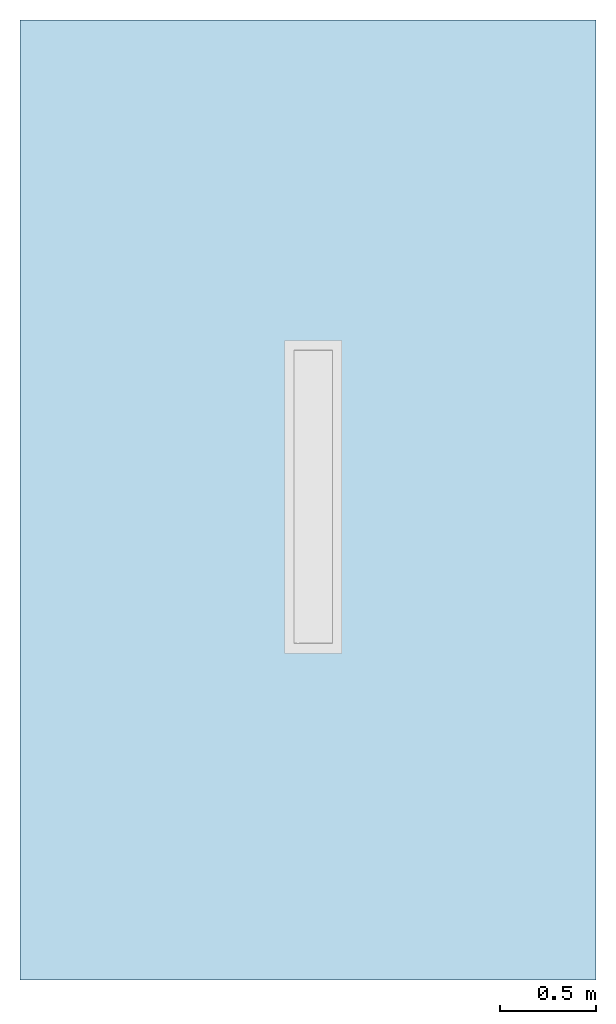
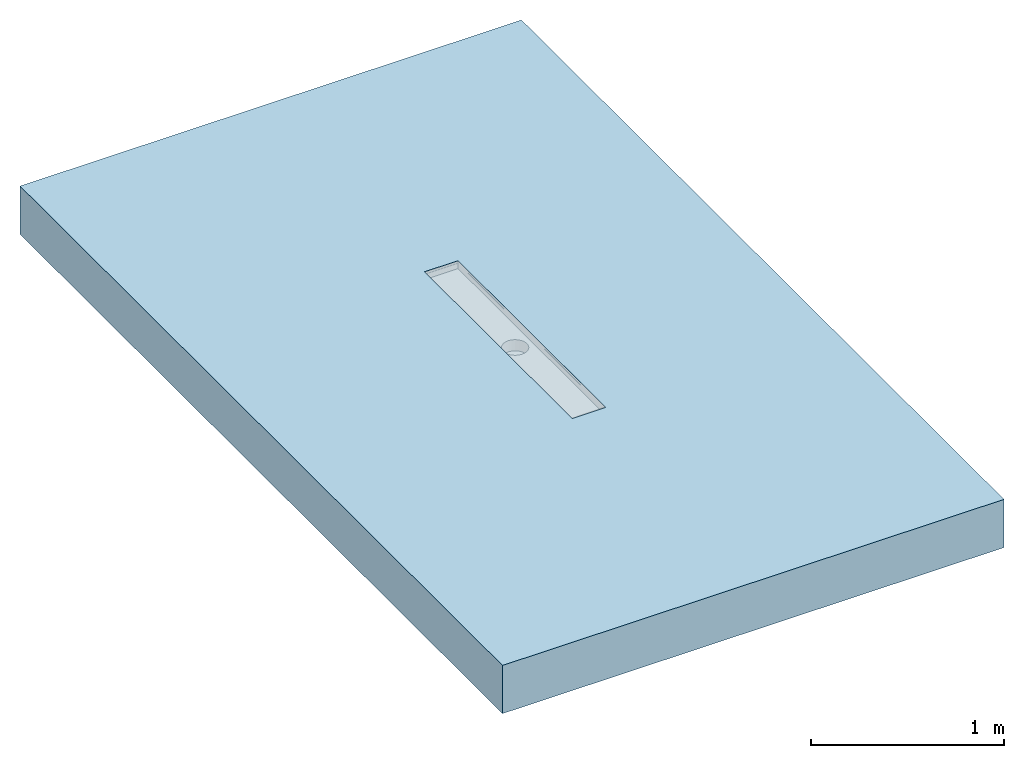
# One storey, incomplete: 1 slab, 1 opening.
"""IFC2X3 building model written with IfcOpenShell, lengths in millimetres."""

import ifcopenshell
import ifcopenshell.guid

model = None  # the IFC model being written
_history = None  # IfcOwnerHistory: only IFC2X3 demands one
_inside = {}  # id of a spatial element -> (the spatial element, [elements in it])
_under = {}  # id of a project, library or spatial element -> (it, [spatial elements below it])
_declared = {}  # id of a project -> (the project, [libraries it declares])
_typed = {}  # id of a type object -> (the type object, [elements of that type])
_made_of = {}  # id of a material, layer set ... -> (it, [elements and type objects made of it])


def new_model(schema):
    """Start an empty IFC model of exactly this schema.

    Asked for "IFC4X3", IfcOpenShell would pick the latest addendum, in which some entities
    have other attributes; the version numbers below select the first issue.
    IFC2X3 requires an IfcOwnerHistory on every rooted entity: one is made here for all.
    """
    global model, _history
    if schema == "IFC4X3":
        model = ifcopenshell.file(schema_version=(4, 3, 0, 0))
    else:
        model = ifcopenshell.file(schema=schema)
    _inside.clear()
    _under.clear()
    _declared.clear()
    _typed.clear()
    _made_of.clear()
    _history = None
    if model.schema == "IFC2X3":
        org = make("IfcOrganization", Name="unknown")
        user = make(
            "IfcPersonAndOrganization",
            ThePerson=make("IfcPerson", FamilyName="unknown"),
            TheOrganization=org,
        )
        app = make(
            "IfcApplication",
            ApplicationDeveloper=org,
            Version="unknown",
            ApplicationFullName="unknown",
            ApplicationIdentifier="unknown",
        )
        _history = make(
            "IfcOwnerHistory",
            OwningUser=user,
            OwningApplication=app,
            ChangeAction="ADDED",
            CreationDate=0,
        )
    return model


def make(cls, **values):
    """One entity of the class cls with the attributes given. An attribute that is None is left unset."""
    return model.create_entity(
        cls, **{name: value for name, value in values.items() if value is not None}
    )


def entity(cls, *values):
    """Any entity or typed value of the class cls, its attributes in the order of the schema. None: left unset."""
    e = model.create_entity(cls)
    for i, value in enumerate(values):
        if value is not None:
            e[i] = value
    return e


def rooted(cls, **values):
    """An entity with a GlobalId (a new one), such as an element, a storey or a relation."""
    return make(cls, GlobalId=ifcopenshell.guid.new(), OwnerHistory=_history, **values)


def si_unit(unit_type, name, prefix=None):
    """IfcSIUnit, for example si_unit("LENGTHUNIT", "METRE", prefix="MILLI")."""
    return make("IfcSIUnit", UnitType=unit_type, Prefix=prefix, Name=name)


def converted_unit(unit_type, name, factor, base, dimensions=None, offset=None):
    """IfcConversionBasedUnit, such as the inch: factor (a typed value) times the base unit."""
    return make(
        "IfcConversionBasedUnit"
        if offset is None
        else "IfcConversionBasedUnitWithOffset",
        ConversionOffset=offset,
        Dimensions=None
        if dimensions is None
        else entity("IfcDimensionalExponents", *dimensions),
        UnitType=unit_type,
        Name=name,
        ConversionFactor=make(
            "IfcMeasureWithUnit", ValueComponent=factor, UnitComponent=base
        ),
    )


def derived_unit(unit_type, elements):
    """IfcDerivedUnit: a product of units, each with its exponent."""
    return make(
        "IfcDerivedUnit",
        Elements=[
            make("IfcDerivedUnitElement", Unit=unit, Exponent=power)
            for unit, power in elements
        ],
        UnitType=unit_type,
    )


def assignment(units):
    """IfcUnitAssignment: the units of a project."""
    return None if units is None else make("IfcUnitAssignment", Units=units)


def point(xyz):
    """IfcCartesianPoint."""
    return None if xyz is None else make("IfcCartesianPoint", Coordinates=xyz)


def direction(xyz):
    """IfcDirection."""
    return None if xyz is None else make("IfcDirection", DirectionRatios=xyz)


def frame(location, z_axis=None, x_axis=None):
    """IfcAxis2Placement3D, a coordinate frame: its origin and axes. An axis left out is left unset."""
    return make(
        "IfcAxis2Placement3D",
        Location=point(location),
        Axis=direction(z_axis),
        RefDirection=direction(x_axis),
    )


def frame_2d(location, x_axis=None):
    """IfcAxis2Placement2D, a coordinate frame in the plane: its origin and x axis."""
    return make(
        "IfcAxis2Placement2D", Location=point(location), RefDirection=direction(x_axis)
    )


def origin():
    """The frame at (0, 0, 0) with its axes left unset."""
    return frame((0.0, 0.0, 0.0))


def place(relative_to, where):
    """IfcLocalPlacement: puts the frame where relative to a parent placement (None: the world)."""
    return make(
        "IfcLocalPlacement", PlacementRelTo=relative_to, RelativePlacement=where
    )


def context(
    kind, dimensions, precision=None, world=None, true_north=None, identifier=None
):
    """IfcGeometricRepresentationContext, for example the 3D "Model" context."""
    return make(
        "IfcGeometricRepresentationContext",
        ContextIdentifier=identifier,
        ContextType=kind,
        CoordinateSpaceDimension=dimensions,
        Precision=precision,
        WorldCoordinateSystem=world,
        TrueNorth=true_north,
    )


def subcontext(parent, identifier, kind, view, scale=None):
    """IfcGeometricRepresentationSubContext, for example "Body" below "Model"."""
    return make(
        "IfcGeometricRepresentationSubContext",
        ContextIdentifier=identifier,
        ContextType=kind,
        ParentContext=parent,
        TargetScale=scale,
        TargetView=view,
    )


def project(units=None, contexts=None):
    """IfcProject with its units and contexts."""
    return rooted(
        "IfcProject",
        Name="project",
        RepresentationContexts=contexts,
        UnitsInContext=assignment(units),
    )


def spatial(cls, under=None, at=None, **own):
    """A site, building, storey or space (cls), placed at a placement, below another one or the project."""
    s = rooted(cls, ObjectPlacement=at, **own)
    if under is not None:
        _under.setdefault(under.id(), (under, []))[1].append(s)
    return s


def profile(cls, at=None, kind="AREA", **sizes):
    """A parametric profile (cls). Its sizes go by their IFC names, for example OverallWidth=200.0."""
    return make(cls, ProfileType=kind, Position=at, **sizes)


def rectangle(**sizes):
    """IfcRectangleProfileDef."""
    return profile("IfcRectangleProfileDef", **sizes)


def extrude(swept, where, along, depth):
    """IfcExtrudedAreaSolid: the profile swept, set in the frame where, extruded along a direction by depth."""
    return make(
        "IfcExtrudedAreaSolid",
        SweptArea=swept,
        Position=where,
        ExtrudedDirection=direction(along),
        Depth=depth,
    )


def faces_of(points, faces, orient=None, outer=None):
    """IfcFace entities. A face is a list of loops; a loop is a list of indices into points, from 0.

    orient and outer hold one flag for each loop. By default every Orientation is true, the
    first loop of a face is its IfcFaceOuterBound and the others are IfcFaceBound.
    """
    made = []
    for i, loops in enumerate(faces):
        bounds = []
        for j, loop in enumerate(loops):
            is_outer = j == 0 if outer is None else outer[i][j]
            bounds.append(
                make(
                    "IfcFaceOuterBound" if is_outer else "IfcFaceBound",
                    Bound=make("IfcPolyLoop", Polygon=[points[k] for k in loop]),
                    Orientation=True if orient is None else orient[i][j],
                )
            )
        made.append(make("IfcFace", Bounds=bounds))
    return made


def faceted_brep(points, faces, orient=None, outer=None, voids=None):
    """IfcFacetedBrep: a solid bounded by flat faces; with voids (closed shells), ...WithVoids."""
    shared = [point(p) for p in points]
    hull = make("IfcClosedShell", CfsFaces=faces_of(shared, faces, orient, outer))
    if voids is None:
        return make("IfcFacetedBrep", Outer=hull)
    return make(
        "IfcFacetedBrepWithVoids",
        Outer=hull,
        Voids=[
            make(cls, CfsFaces=faces_of(shared, fs, o, b)) for cls, fs, o, b in voids
        ],
    )


def shape(context_of_items, identifier, shape_type, items):
    """IfcShapeRepresentation: the items that make up one representation, for example the "Body"."""
    return make(
        "IfcShapeRepresentation",
        ContextOfItems=context_of_items,
        RepresentationIdentifier=identifier,
        RepresentationType=shape_type,
        Items=items,
    )


def material(Name=None, Category=None):
    """IfcMaterial."""
    return make("IfcMaterial", Name=Name, Category=Category)


def layer(
    of_material, thickness, ventilated=None, Name=None, Category=None, Priority=None
):
    """IfcMaterialLayer: one layer of a wall or slab, of a material (None: an air gap)."""
    return make(
        "IfcMaterialLayer",
        Material=of_material,
        LayerThickness=thickness,
        IsVentilated=ventilated,
        Name=Name,
        Category=Category,
        Priority=Priority,
    )


def layer_set(layers, Name=None):
    """IfcMaterialLayerSet."""
    return make("IfcMaterialLayerSet", MaterialLayers=layers, LayerSetName=Name)


def layer_usage(for_layer_set, set_direction, sense, offset, extent=None):
    """IfcMaterialLayerSetUsage: how a layer set lies in its element."""
    return make(
        "IfcMaterialLayerSetUsage",
        ForLayerSet=for_layer_set,
        LayerSetDirection=set_direction,
        DirectionSense=sense,
        OffsetFromReferenceLine=offset,
        ReferenceExtent=extent,
    )


def made_of(thing, what):
    """Note that an element or type object is made of a material, layer set ...; save() writes the relation."""
    if what is not None:
        _made_of.setdefault(what.id(), (what, []))[1].append(thing)
    return thing


def element(
    cls,
    number,
    at=None,
    inside=None,
    cuts=None,
    type_object=None,
    material=None,
    context=None,
    identifier="Body",
    shape_type=None,
    held_by="IfcProductDefinitionShape",
    body=None,
    shapes=None,
    **own,
):
    """One element of the class cls, such as IfcWall. Its Tag is "e" and its number.

    at: its placement. inside: the storey or other place that contains it. cuts: it is an
    opening in that element (IfcRelVoidsElement). A single representation is given by context,
    identifier, shape_type and body (its items); several are given by shapes. held_by: the class
    of the entity that holds the representations. save() writes the other relations.
    """
    e = rooted(cls, Tag="e%d" % number, ObjectPlacement=at, **own)
    if body is not None:
        shapes = [shape(context, identifier, shape_type, body)]
    if shapes is not None:
        e.Representation = make(held_by, Representations=shapes)
    if inside is not None:
        _inside.setdefault(inside.id(), (inside, []))[1].append(e)
    if cuts is not None:
        rooted(
            "IfcRelVoidsElement", RelatingBuildingElement=cuts, RelatedOpeningElement=e
        )
    if type_object is not None:
        _typed.setdefault(type_object.id(), (type_object, []))[1].append(e)
    return made_of(e, material)


def aggregate(whole, parts):
    """IfcRelAggregates: a whole, such as a stair, and the parts it consists of."""
    return rooted("IfcRelAggregates", RelatingObject=whole, RelatedObjects=parts)


def save(model, path):
    """Write the relations noted so far, then the file.

    IfcRelAggregates (storeys below a building ...), IfcRelContainedInSpatialStructure (elements
    in a storey), IfcRelDefinesByType, IfcRelAssociatesMaterial and IfcRelDeclares: one each for
    every whole, place, type object, material and project.
    """
    for whole, parts in _under.values():
        aggregate(whole, parts)
    for where, things in _inside.values():
        rooted(
            "IfcRelContainedInSpatialStructure",
            RelatedElements=things,
            RelatingStructure=where,
        )
    for kind, things in _typed.values():
        rooted("IfcRelDefinesByType", RelatedObjects=things, RelatingType=kind)
    for what, things in _made_of.values():
        rooted("IfcRelAssociatesMaterial", RelatedObjects=things, RelatingMaterial=what)
    for by, libraries in _declared.values():
        rooted("IfcRelDeclares", RelatingContext=by, RelatedDefinitions=libraries)
    model.write(path)


model = new_model("IFC2X3")

# Units and contexts
model_context = context("Model", 3, precision=1e-05, world=origin(), true_north=direction((2.0, 6.12303176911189e-17, 1.0)))
context_of_model = context(None, 3, precision=1e-05, world=origin(), true_north=direction((2.0, 6.12303176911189e-17, 1.0)))
body_context = subcontext(model_context, "Body", "Model", "MODEL_VIEW")
ifc_project = project(units=[si_unit("LENGTHUNIT", "METRE", prefix="MILLI"), converted_unit("AREAUNIT", "SQUARE FOOT", entity("IfcRatioMeasure", 0.09290304), si_unit("AREAUNIT", "SQUARE_METRE"), dimensions=[2, 0, 0, 0, 0, 0, 0]), converted_unit("VOLUMEUNIT", "CUBIC FOOT", entity("IfcRatioMeasure", 0.028316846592), si_unit("VOLUMEUNIT", "CUBIC_METRE"), dimensions=[3, 0, 0, 0, 0, 0, 0]), converted_unit("PLANEANGLEUNIT", "DEGREE", entity("IfcRatioMeasure", 0.0174532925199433), si_unit("PLANEANGLEUNIT", "RADIAN"), dimensions=[0, 0, 0, 0, 0, 0, 0]), si_unit("MASSUNIT", "GRAM", prefix="KILO"), si_unit("TIMEUNIT", "SECOND"), si_unit("THERMODYNAMICTEMPERATUREUNIT", "KELVIN"), derived_unit("THERMALTRANSMITTANCEUNIT", [(si_unit("MASSUNIT", "GRAM", prefix="KILO"), 1), (si_unit("THERMODYNAMICTEMPERATUREUNIT", "KELVIN"), -1), (si_unit("TIMEUNIT", "SECOND"), -3)]), derived_unit("VOLUMETRICFLOWRATEUNIT", [(si_unit("LENGTHUNIT", "METRE"), 3), (si_unit("TIMEUNIT", "SECOND"), -1)]), si_unit("POWERUNIT", "WATT")], contexts=[model_context, context_of_model])

# Site, building, storey
site_placement = place(None, origin())
site = spatial("IfcSite", under=ifc_project, at=site_placement, Name="Default", CompositionType="ELEMENT")
building_placement = place(site_placement, origin())
building = spatial("IfcBuilding", under=site, at=building_placement, CompositionType="ELEMENT")
storey_placement = place(building_placement, origin())
storey = spatial("IfcBuildingStorey", under=building, at=storey_placement, Name="Level 1", CompositionType="ELEMENT", Elevation=0.0)

# Slab, opening
ifc_material = material(Name="Default Floor")
ifc_layer = layer(ifc_material, 304.8)
ifc_layer_set = layer_set([ifc_layer], Name="Floor:Generic - 12\"")
ifc_layer_usage = layer_usage(ifc_layer_set, "AXIS3", "POSITIVE", 0.0)
slab_placement = place(storey_placement, frame((-2592.42688678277, 381.838531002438, -304.8)))
slab = element("IfcSlab", 1, at=slab_placement, inside=storey, material=ifc_layer_usage, Name="Floor:Generic - 12\"", ObjectType="Floor:Generic - 12\"", PredefinedType="FLOOR", context=body_context, shape_type="SweptSolid", body=[
    extrude(rectangle(XDim=5000.0, YDim=3000.0, at=frame_2d((0.0, 0.0), x_axis=(0.0, -1.0))), frame((1500.0, 2500.0, 304.8), z_axis=(0.0, 0.0, -1.0), x_axis=(-1.0, 0.0, 0.0)), (0.0, 0.0, 1.0), 304.8),
])
opening_placement = place(slab_placement, frame((1378.18516071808, 1701.43481396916, 184.151793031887)))
element("IfcOpeningElement", 2, at=opening_placement, cuts=slab, ObjectType="Recess", context=body_context, shape_type="Brep", body=[
    faceted_brep([(250.0, 50.0, 120.648206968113), (250.0, 50.0, 105.648216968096), (250.0, 1580.0, 105.648216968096), (250.0, 1580.0, 120.648206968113), (250.0, 50.0, 104.148206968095), (250.0, 50.0, 70.6482069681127), (250.0, 1580.0, 70.6482069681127), (250.0, 1580.0, 104.148206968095), (50.0, 50.0, 70.6482069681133), (50.0, 50.0, 104.148206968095), (50.0, 1580.0, 104.148206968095), (50.0, 1580.0, 70.6482069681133), (50.0, 50.0, 105.648216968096), (50.0, 50.0, 120.648206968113), (50.0, 1580.0, 120.648206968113), (50.0, 1580.0, 105.648216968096), (114.499999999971, 753.512196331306, 70.6482069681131), (131.623847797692, 746.419266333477, 70.648206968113), (99.7954185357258, 764.795418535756, 70.6482069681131), (150.0, 744.0, 70.648206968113), (79.0, 815.0, 70.6482069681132), (81.4192663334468, 796.623847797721, 70.6482069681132), (88.5121963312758, 779.500000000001, 70.6482069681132), (168.37615220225, 746.419266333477, 70.6482069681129), (185.499999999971, 753.512196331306, 70.6482069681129), (200.204581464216, 764.795418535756, 70.6482069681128), (211.487803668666, 779.500000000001, 70.6482069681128), (218.580733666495, 796.623847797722, 70.6482069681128), (221.0, 815.0, 70.6482069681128), (88.5121963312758, 850.500000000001, 70.6482069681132), (81.4192663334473, 833.37615220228, 70.6482069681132), (99.7954185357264, 865.204581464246, 70.6482069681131), (114.499999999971, 876.487803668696, 70.6482069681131), (131.623847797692, 883.580733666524, 70.648206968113), (150.0, 886.0, 70.648206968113), (218.580733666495, 833.376152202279, 70.6482069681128), (211.487803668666, 850.5, 70.6482069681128), (185.499999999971, 876.487803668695, 70.6482069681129), (168.37615220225, 883.580733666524, 70.6482069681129), (200.204581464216, 865.204581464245, 70.6482069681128), (131.623847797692, 746.419266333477, 0.0), (114.499999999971, 753.512196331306, 0.0), (99.7954185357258, 764.795418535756, 0.0), (150.0, 744.0, 0.0), (81.4192663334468, 833.376152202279, 0.0), (88.5121963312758, 779.500000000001, 0.0), (81.4192663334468, 796.623847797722, 0.0), (131.623847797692, 883.580733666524, 0.0), (168.37615220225, 746.419266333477, 0.0), (200.204581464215, 764.795418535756, 0.0), (185.499999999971, 753.512196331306, 0.0), (218.580733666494, 796.623847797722, 0.0), (211.487803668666, 779.500000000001, 0.0), (211.487803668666, 850.5, 0.0), (79.0, 815.0, 0.0), (88.5121963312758, 850.500000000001, 0.0), (99.7954185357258, 865.204581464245, 0.0), (150.0, 886.0, 0.0), (114.499999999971, 876.487803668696, 0.0), (185.499999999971, 876.487803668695, 0.0), (218.580733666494, 833.376152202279, 0.0), (221.0, 815.0, 0.0), (200.204581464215, 865.204581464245, 0.0), (168.37615220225, 883.580733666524, 0.0), (0.0, 0.0, 104.148206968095), (0.0, 1630.0, 104.148206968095), (300.0, 0.0, 104.148206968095), (300.0, 1630.0, 104.148206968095), (0.0, 1630.0, 105.648216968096), (0.0, 0.0, 105.648216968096), (300.0, 1630.0, 105.648216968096), (300.0, 0.0, 105.648216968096)], [[[0, 1, 2]], [[2, 3, 0]], [[4, 5, 6]], [[6, 7, 4]], [[8, 9, 10]], [[10, 11, 8]], [[12, 13, 14]], [[14, 15, 12]], [[15, 14, 3]], [[3, 2, 15]], [[11, 10, 7]], [[7, 6, 11]], [[1, 0, 13]], [[13, 12, 1]], [[5, 4, 8]], [[9, 8, 4]], [[13, 0, 14]], [[3, 14, 0]], [[8, 16, 17]], [[16, 8, 18]], [[8, 17, 19]], [[20, 21, 8]], [[22, 18, 8]], [[21, 22, 8]], [[8, 11, 20]], [[5, 19, 23]], [[19, 5, 8]], [[5, 23, 24]], [[24, 25, 5]], [[26, 27, 5]], [[25, 26, 5]], [[5, 27, 28]], [[29, 30, 11]], [[31, 29, 11]], [[32, 11, 33]], [[11, 32, 31]], [[34, 33, 11]], [[11, 6, 34]], [[30, 20, 11]], [[35, 36, 6]], [[28, 35, 6]], [[37, 38, 6]], [[39, 6, 36]], [[6, 39, 37]], [[38, 34, 6]], [[28, 6, 5]], [[40, 41, 42]], [[43, 40, 42]], [[44, 45, 46]], [[47, 43, 42]], [[45, 47, 42]], [[48, 49, 50]], [[47, 48, 43]], [[49, 51, 52]], [[53, 49, 48]], [[53, 51, 49]], [[44, 46, 54]], [[44, 55, 56]], [[56, 47, 45]], [[57, 48, 47]], [[47, 56, 58]], [[57, 59, 48]], [[51, 60, 61]], [[53, 60, 51]], [[53, 59, 62]], [[48, 59, 53]], [[63, 59, 57]], [[44, 56, 45]], [[36, 53, 62]], [[37, 59, 63]], [[62, 59, 39]], [[38, 63, 57]], [[28, 60, 35]], [[60, 28, 61]], [[35, 60, 36]], [[60, 53, 36]], [[62, 39, 36]], [[37, 39, 59]], [[63, 38, 37]], [[57, 34, 38]], [[33, 47, 58]], [[56, 32, 58]], [[29, 55, 44]], [[56, 55, 31]], [[30, 44, 54]], [[47, 33, 34]], [[58, 32, 33]], [[56, 31, 32]], [[55, 29, 31]], [[30, 29, 44]], [[54, 20, 30]], [[47, 34, 57]], [[46, 21, 54]], [[45, 22, 46]], [[40, 43, 17]], [[42, 18, 45]], [[46, 22, 21]], [[21, 20, 54]], [[16, 41, 17]], [[16, 18, 42]], [[41, 40, 17]], [[18, 22, 45]], [[42, 41, 16]], [[43, 19, 17]], [[23, 48, 50]], [[49, 24, 50]], [[26, 52, 51]], [[49, 52, 25]], [[27, 51, 61]], [[48, 23, 19]], [[50, 24, 23]], [[49, 25, 24]], [[52, 26, 25]], [[27, 26, 51]], [[61, 28, 27]], [[48, 19, 43]], [[64, 9, 4]], [[9, 64, 65]], [[66, 4, 67]], [[4, 66, 64]], [[10, 65, 7]], [[65, 10, 9]], [[7, 67, 4]], [[67, 7, 65]], [[68, 15, 2]], [[15, 68, 69]], [[70, 2, 71]], [[2, 70, 68]], [[12, 69, 1]], [[69, 12, 15]], [[1, 71, 2]], [[71, 1, 69]], [[69, 68, 65]], [[65, 64, 69]], [[71, 69, 64]], [[64, 66, 71]], [[70, 71, 66]], [[66, 67, 70]], [[68, 70, 67]], [[67, 65, 68]]]),
])

save(model, "model.ifc")
